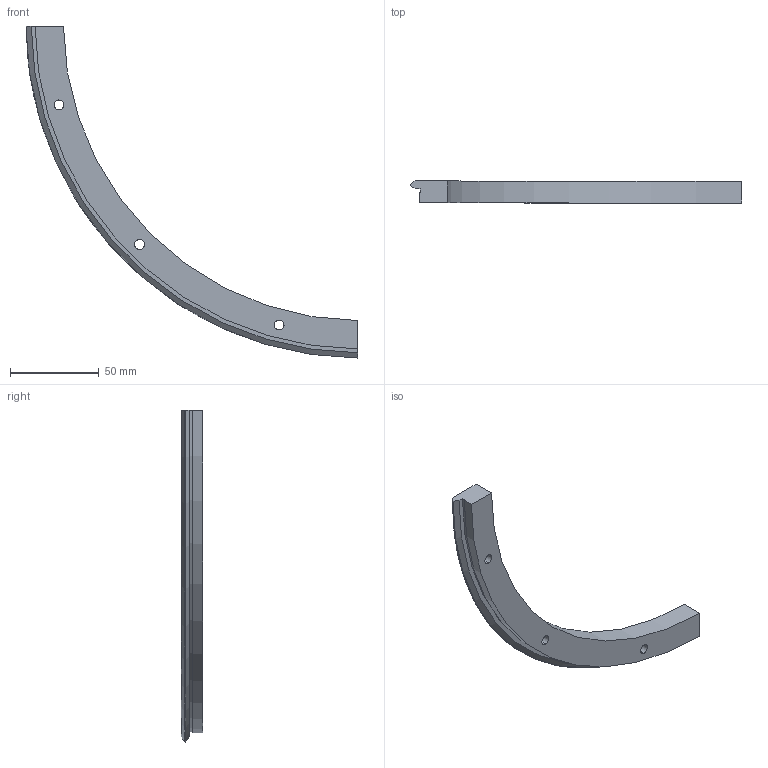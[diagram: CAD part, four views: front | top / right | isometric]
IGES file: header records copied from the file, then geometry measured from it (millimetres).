
Start section: 3D InterOp IGES (v. 2020 1.0.1), Spatial Corp. Copyright (c) 1999-2017.
Global section: file name: res_376_r90.igs; native system: Spatial Corp.; preprocessor: 3D InterOp ACIS/IGES; author: TraceParts; organization: TraceParts S.A.; date: 20220624.101435; units: millimetre
Bounding box: 187.11 x 12.25 x 187.11 mm (x, y, z)
Surface area: 19038.3 mm2 (no closed solid volume)
Topology: 0 solids, 0 shells, 28 faces, 138 edges, 138 vertices
Faces by surface type: revolution 19, extrusion 9
